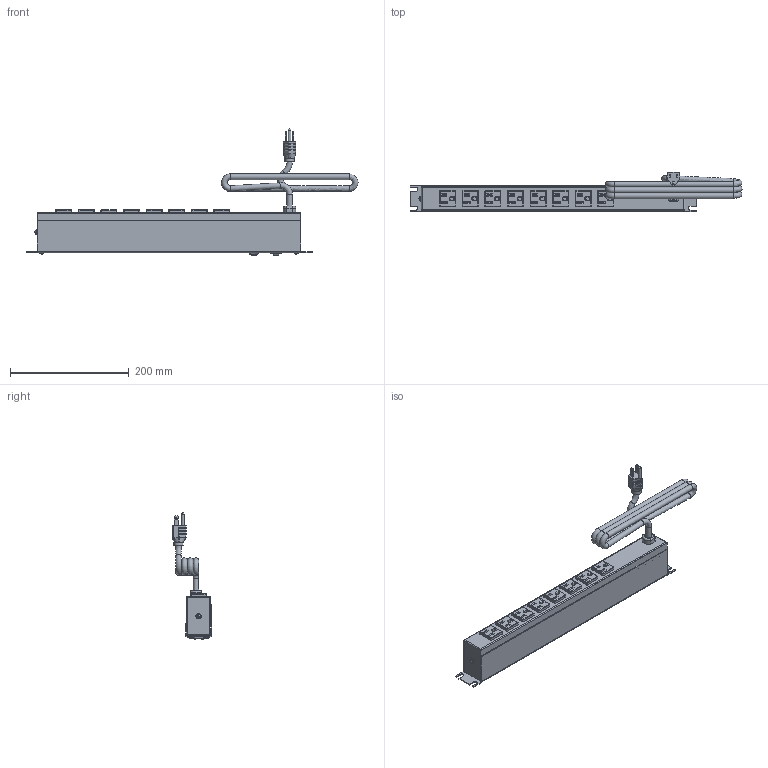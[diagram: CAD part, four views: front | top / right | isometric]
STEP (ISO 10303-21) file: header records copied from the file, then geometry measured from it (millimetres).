
FILE_DESCRIPTION(/* description */ (''),/* implementation_level */ '2;1');
FILE_NAME(/* name */ 'E:\Manufacturing\drawings\Web Drawings\POWER BARS\Shielded Cord & Tooless Mounting\STEP''s\1583H8B1BKV.stp',/* time_stamp */ '2018-06-05T10:14:45-04:00',/* author */ ('tfoster'),/* organization */ (''),/* preprocessor_version */ 'ST-DEVELOPER v16.13',/* originating_system */ 'Autodesk Inventor 2018',/* authorisation */ '');
FILE_SCHEMA (('AUTOMOTIVE_DESIGN { 1 0 10303 214 3 1 1 }'));
Products named in the file (12): 1583H8A1BK; 1582 Front plate; 1582 Back Plate; #24188; Reset Switch; Power Switch Assembly; Power Switch; Power Switch pt; Cored 2; toothwasher; 90287A194; Receptacle
Assembly tree (21 placements, depth 3):
  1583H8A1BK
    1582 Front plate
    1582 Back Plate
    #24188  x4
    Reset Switch
    Power Switch Assembly
      Power Switch
      Power Switch pt
    Cored 2
    Receptacle  x8
    toothwasher
    90287A194
Bounding box: 560.01 x 66.07 x 213.79 mm (x, y, z)
Volume: 376645.1 mm3; surface area: 308855 mm2
Topology: 20 solids, 20 shells, 1038 faces, 2975 edges, 1977 vertices
Faces by surface type: plane 686, cylinder 197, bspline 77, sphere 38, cone 25, torus 15
Full cylindrical faces by diameter (mm): 1 x2, 1.803 x3, 1.905 x2, 2.286 x1, 2.997 x4, 3 x2, 4.3 x1, 4.775 x1, 4.801 x1, 5.563 x4, 7.849 x1, 9.5 x5, 11 x1, 15.621 x1
Entity records: 24007 total; most frequent: CARTESIAN_POINT 8444, ORIENTED_EDGE 3330, DIRECTION 2825, EDGE_CURVE 1665, VERTEX_POINT 1166, LINE 1075, VECTOR 1075, AXIS2_PLACEMENT_3D 875
